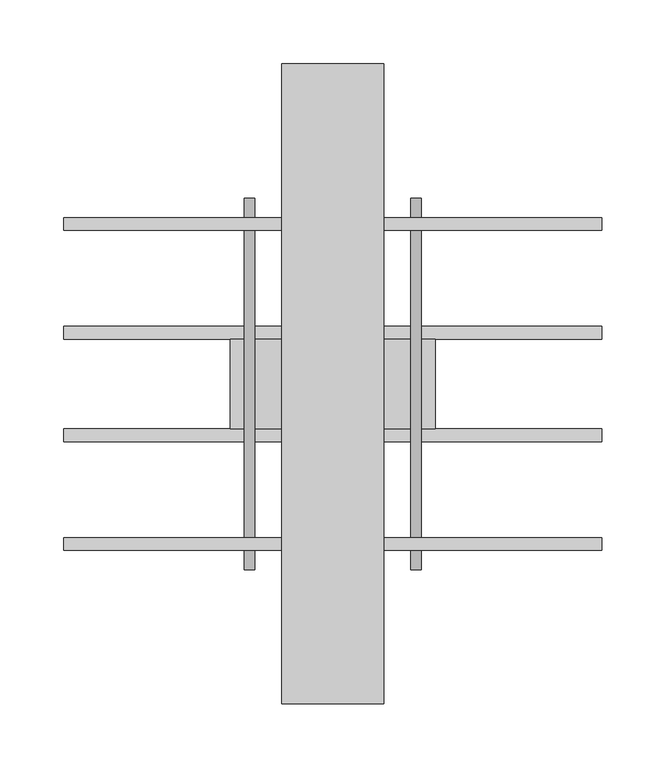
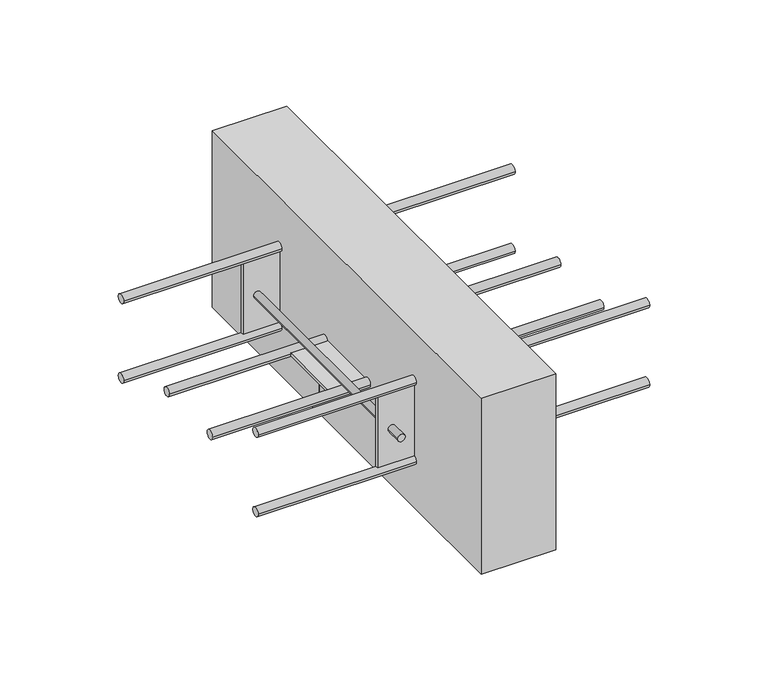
"""IFC4 building model written with IfcOpenShell, lengths in millimetres: fastener geometry, ACINOXplus_Typenreihe_Q : QA+ S1."""

from ifc_helpers import new_model, si_unit, point, frame, frame_2d, origin, place, context, project, spatial, polyline, circle_curve, trimmed, segment, composite_curve, outline, extrude, source, transform, mapped, element, save
from ifc_brep_helpers import plane_surface, cylinder_surface, advanced_brep


def fastener_b8738ff0(model_context):
    return source(origin(), model_context, "Body", "SolidModel", [
        extrude(outline(polyline([(40.0, 250.0), (40.0, -250.0), (-40.0, -250.0), (-40.0, 250.0), (40.0, 250.0)])), frame((0.0, 0.0, -200.0), z_axis=(0.0, 0.0, 1.0), x_axis=(1.0, 0.0, 0.0)), (0.0, 0.0, 1.0), 200.0),
        extrude(outline(composite_curve([segment(trimmed(circle_curve(frame_2d((-40.0, -109.0)), 5.0), [point((-45.0, -109.0))], [point((-35.0, -109.0))], False, "CARTESIAN"), True, "CONTINUOUS"), segment(trimmed(circle_curve(frame_2d((-40.0, -109.0)), 5.0), [point((-35.0, -109.0))], [point((-45.0, -109.0))], False, "CARTESIAN"), True, "CONTINUOUS")], self_intersect=False)), frame((-210.0, 0.0, 0.0), z_axis=(1.0, 0.0, 0.0), x_axis=(0.0, 1.0, 0.0)), (0.0, 0.0, 1.0), 420.0),
        extrude(outline(composite_curve([segment(trimmed(circle_curve(frame_2d((40.0, -109.0)), 5.0), [point((35.0, -109.0))], [point((45.0, -109.0))], False, "CARTESIAN"), True, "CONTINUOUS"), segment(trimmed(circle_curve(frame_2d((40.0, -109.0)), 5.0), [point((45.0, -109.0))], [point((35.0, -109.0))], False, "CARTESIAN"), True, "CONTINUOUS")], self_intersect=False)), frame((-210.0, 0.0, 0.0), z_axis=(1.0, 0.0, 0.0), x_axis=(0.0, 1.0, 0.0)), (0.0, 0.0, 1.0), 420.0),
        advanced_brep(
        [(-69.0, 0.0, -137.0), (-61.0, 0.0, -137.0), (61.0, 0.0, -137.0), (69.0, 0.0, -137.0), (-61.0, 0.0, -110.5), (-69.0, 0.0, -110.5), (69.0, 0.0, -110.5), (61.0, 0.0, -110.5), (80.0, 35.0, -107.5), (-80.0, 35.0, -107.5), (-80.0, -35.0, -107.5), (80.0, -35.0, -107.5), (80.0, 35.0, -110.5), (80.0, -35.0, -110.5), (-80.0, -35.0, -110.5), (-80.0, 35.0, -110.5)],
        [
            (0, 1, circle_curve(frame((-65.0, 0.0, -137.0), z_axis=(0.0, 0.0, -1.0), x_axis=(1.0, 0.0, 0.0)), 4.0)),
            (1, 0, circle_curve(frame((-65.0, 0.0, -137.0), z_axis=(0.0, 0.0, -1.0), x_axis=(1.0, 0.0, 0.0)), 4.0)),
            (2, 3, circle_curve(frame((65.0, 0.0, -137.0), z_axis=(0.0, 0.0, -1.0), x_axis=(1.0, 0.0, 0.0)), 4.0)),
            (3, 2, circle_curve(frame((65.0, 0.0, -137.0), z_axis=(0.0, 0.0, -1.0), x_axis=(1.0, 0.0, 0.0)), 4.0)),
            (1, 4),
            (4, 5, circle_curve(frame((-65.0, 0.0, -110.5), z_axis=(0.0, 0.0, -1.0), x_axis=(1.0, 0.0, 0.0)), 4.0)),
            (5, 0),
            (5, 4, circle_curve(frame((-65.0, 0.0, -110.5), z_axis=(0.0, 0.0, -1.0), x_axis=(1.0, 0.0, 0.0)), 4.0)),
            (3, 6),
            (6, 7, circle_curve(frame((65.0, 0.0, -110.5), z_axis=(0.0, 0.0, -1.0), x_axis=(1.0, 0.0, 0.0)), 4.0)),
            (7, 2),
            (7, 6, circle_curve(frame((65.0, 0.0, -110.5), z_axis=(0.0, 0.0, -1.0), x_axis=(1.0, 0.0, 0.0)), 4.0)),
            (8, 9),
            (9, 10),
            (10, 11),
            (11, 8),
            (12, 13),
            (13, 14),
            (14, 15),
            (15, 12),
            (8, 12),
            (15, 9),
            (14, 10),
            (13, 11),
        ],
        [
            plane_surface(frame((-61.0, 0.0, -137.0), z_axis=(0.0, 0.0, -1.0), x_axis=(0.0, -1.0, 0.0))),
            cylinder_surface(frame((-65.0, 0.0, -137.0), z_axis=(0.0, 0.0, 1.0), x_axis=(1.0, 0.0, 0.0)), 4.0),
            cylinder_surface(frame((65.0, 0.0, -109.0), z_axis=(0.0, 0.0, 1.0), x_axis=(1.0, 0.0, 0.0)), 4.0),
            plane_surface(frame((-80.0, 35.0, -107.5), z_axis=(0.0, 0.0, 1.0), x_axis=(-1.0, 0.0, 0.0))),
            plane_surface(frame((-80.0, 35.0, -110.5), z_axis=(0.0, 0.0, -1.0), x_axis=(1.0, 0.0, 0.0))),
            plane_surface(frame((80.0, 35.0, -107.5), z_axis=(0.0, 1.0, 0.0), x_axis=(0.0, 0.0, -1.0))),
            plane_surface(frame((-80.0, 35.0, -107.5), z_axis=(-1.0, 0.0, 0.0), x_axis=(0.0, 0.0, -1.0))),
            plane_surface(frame((-80.0, -35.0, -107.5), z_axis=(0.0, -1.0, 0.0), x_axis=(0.0, 0.0, -1.0))),
            plane_surface(frame((80.0, -35.0, -107.5), z_axis=(1.0, 0.0, 0.0), x_axis=(0.0, 0.0, -1.0))),
        ],
        [
            (0, [[1, 2]]),
            (0, [[3, 4]]),
            (1, [[-2, 5, 6, 7]]),
            (1, [[-1, -7, 8, -5]]),
            (2, [[-4, 9, 10, 11]]),
            (2, [[-3, -11, 12, -9]]),
            (3, [[13, 14, 15, 16]]),
            (4, [[17, 18, 19, 20], [-6, -8], [-10, -12]]),
            (5, [[-13, 21, -20, 22]]),
            (6, [[-14, -22, -19, 23]]),
            (7, [[-15, -23, -18, 24]]),
            (8, [[-16, -24, -17, -21]]),
        ],
    ),
        extrude(outline(polyline([(80.0, -123.5), (80.0, -126.5), (-80.0, -126.5), (-80.0, -123.5), (80.0, -123.5)])), frame((0.0, 0.0, -140.0), z_axis=(0.0, 0.0, 1.0), x_axis=(1.0, 0.0, 0.0)), (0.0, 0.0, 1.0), 80.0),
        extrude(outline(polyline([(80.0, 126.5), (80.0, 123.5), (-80.0, 123.5), (-80.0, 126.5), (80.0, 126.5)])), frame((0.0, 0.0, -140.0), z_axis=(0.0, 0.0, 1.0), x_axis=(1.0, 0.0, 0.0)), (0.0, 0.0, 1.0), 80.0),
        extrude(outline(composite_curve([segment(trimmed(circle_curve(frame_2d((-100.0, -65.0)), 4.0), [point((-100.0, -69.0))], [point((-100.0, -61.0))], False, "CARTESIAN"), True, "CONTINUOUS"), segment(trimmed(circle_curve(frame_2d((-100.0, -65.0)), 4.0), [point((-100.0, -61.0))], [point((-100.0, -69.0))], False, "CARTESIAN"), True, "CONTINUOUS")], self_intersect=False)), frame((0.0, 126.5, 0.0), z_axis=(0.0, 1.0, 0.0), x_axis=(0.0, 0.0, 1.0)), (0.0, 0.0, 1.0), 18.5),
        extrude(outline(composite_curve([segment(trimmed(circle_curve(frame_2d((-100.0, -65.0)), 4.0), [point((-100.0, -61.0))], [point((-100.0, -69.0))], False, "CARTESIAN"), True, "CONTINUOUS"), segment(trimmed(circle_curve(frame_2d((-100.0, -65.0)), 4.0), [point((-100.0, -69.0))], [point((-100.0, -61.0))], False, "CARTESIAN"), True, "CONTINUOUS")], self_intersect=False)), frame((0.0, -145.0, 0.0), z_axis=(0.0, 1.0, 0.0), x_axis=(0.0, 0.0, 1.0)), (0.0, 0.0, 1.0), 18.5),
        extrude(outline(composite_curve([segment(trimmed(circle_curve(frame_2d((-100.0, -65.0)), 4.0), [point((-100.0, -69.0))], [point((-100.0, -61.0))], False, "CARTESIAN"), True, "CONTINUOUS"), segment(trimmed(circle_curve(frame_2d((-100.0, -65.0)), 4.0), [point((-100.0, -61.0))], [point((-100.0, -69.0))], False, "CARTESIAN"), True, "CONTINUOUS")], self_intersect=False)), frame((0.0, -123.5, 0.0), z_axis=(0.0, 1.0, 0.0), x_axis=(0.0, 0.0, 1.0)), (0.0, 0.0, 1.0), 247.0),
        extrude(outline(composite_curve([segment(trimmed(circle_curve(frame_2d((-100.0, 65.0)), 4.0), [point((-100.0, 61.0))], [point((-100.0, 69.0))], False, "CARTESIAN"), True, "CONTINUOUS"), segment(trimmed(circle_curve(frame_2d((-100.0, 65.0)), 4.0), [point((-100.0, 69.0))], [point((-100.0, 61.0))], False, "CARTESIAN"), True, "CONTINUOUS")], self_intersect=False)), frame((0.0, 126.5, 0.0), z_axis=(0.0, 1.0, 0.0), x_axis=(0.0, 0.0, 1.0)), (0.0, 0.0, 1.0), 18.5),
        extrude(outline(composite_curve([segment(trimmed(circle_curve(frame_2d((-100.0, 65.0)), 4.0), [point((-100.0, 69.0))], [point((-100.0, 61.0))], False, "CARTESIAN"), True, "CONTINUOUS"), segment(trimmed(circle_curve(frame_2d((-100.0, 65.0)), 4.0), [point((-100.0, 61.0))], [point((-100.0, 69.0))], False, "CARTESIAN"), True, "CONTINUOUS")], self_intersect=False)), frame((0.0, -145.0, 0.0), z_axis=(0.0, 1.0, 0.0), x_axis=(0.0, 0.0, 1.0)), (0.0, 0.0, 1.0), 18.5),
        extrude(outline(composite_curve([segment(trimmed(circle_curve(frame_2d((-100.0, 65.0)), 4.0), [point((-100.0, 61.0))], [point((-100.0, 69.0))], False, "CARTESIAN"), True, "CONTINUOUS"), segment(trimmed(circle_curve(frame_2d((-100.0, 65.0)), 4.0), [point((-100.0, 69.0))], [point((-100.0, 61.0))], False, "CARTESIAN"), True, "CONTINUOUS")], self_intersect=False)), frame((0.0, -123.5, 0.0), z_axis=(0.0, 1.0, 0.0), x_axis=(0.0, 0.0, 1.0)), (0.0, 0.0, 1.0), 247.0),
        extrude(outline(composite_curve([segment(trimmed(circle_curve(frame_2d((125.0, -145.0)), 5.0), [point((120.0, -145.0))], [point((130.0, -145.0))], False, "CARTESIAN"), True, "CONTINUOUS"), segment(trimmed(circle_curve(frame_2d((125.0, -145.0)), 5.0), [point((130.0, -145.0))], [point((120.0, -145.0))], False, "CARTESIAN"), True, "CONTINUOUS")], self_intersect=False)), frame((-210.0, 0.0, 0.0), z_axis=(1.0, 0.0, 0.0), x_axis=(0.0, 1.0, 0.0)), (0.0, 0.0, 1.0), 420.0),
        extrude(outline(composite_curve([segment(trimmed(circle_curve(frame_2d((-125.0, -145.0)), 5.0), [point((-130.0, -145.0))], [point((-120.0, -145.0))], False, "CARTESIAN"), True, "CONTINUOUS"), segment(trimmed(circle_curve(frame_2d((-125.0, -145.0)), 5.0), [point((-120.0, -145.0))], [point((-130.0, -145.0))], False, "CARTESIAN"), True, "CONTINUOUS")], self_intersect=False)), frame((-210.0, 0.0, 0.0), z_axis=(1.0, 0.0, 0.0), x_axis=(0.0, 1.0, 0.0)), (0.0, 0.0, 1.0), 420.0),
        extrude(outline(composite_curve([segment(trimmed(circle_curve(frame_2d((125.0, -55.0)), 5.0), [point((120.0, -55.0))], [point((130.0, -55.0))], False, "CARTESIAN"), True, "CONTINUOUS"), segment(trimmed(circle_curve(frame_2d((125.0, -55.0)), 5.0), [point((130.0, -55.0))], [point((120.0, -55.0))], False, "CARTESIAN"), True, "CONTINUOUS")], self_intersect=False)), frame((-210.0, 0.0, 0.0), z_axis=(1.0, 0.0, 0.0), x_axis=(0.0, 1.0, 0.0)), (0.0, 0.0, 1.0), 420.0),
        extrude(outline(composite_curve([segment(trimmed(circle_curve(frame_2d((-125.0, -55.0)), 5.0), [point((-130.0, -55.0))], [point((-120.0, -55.0))], False, "CARTESIAN"), True, "CONTINUOUS"), segment(trimmed(circle_curve(frame_2d((-125.0, -55.0)), 5.0), [point((-120.0, -55.0))], [point((-130.0, -55.0))], False, "CARTESIAN"), True, "CONTINUOUS")], self_intersect=False)), frame((-210.0, 0.0, 0.0), z_axis=(1.0, 0.0, 0.0), x_axis=(0.0, 1.0, 0.0)), (0.0, 0.0, 1.0), 420.0),
    ])


if __name__ == "__main__":
    model = new_model("IFC4")
    model_context = context("Model", 3, world=origin())
    ifc_project = project(units=[si_unit("LENGTHUNIT", "METRE", prefix="MILLI")], contexts=[model_context])
    site = spatial("IfcSite", under=ifc_project)
    building = spatial("IfcBuilding", under=site)
    placement = place(None, origin())
    fastener_shape = fastener_b8738ff0(model_context)
    element("IfcFastener", 1, ObjectType="ACINOXplus_Typenreihe_Q : QA+ S1", at=placement, inside=building, context=model_context, shape_type="MappedRepresentation", body=[
        mapped(fastener_shape, transform((0.0, 0.0, 0.0), x_axis=(1.0, 0.0, 0.0), y_axis=(0.0, 1.0, 0.0), z_axis=(0.0, 0.0, 1.0))),
    ])
    save(model, "model.ifc")
